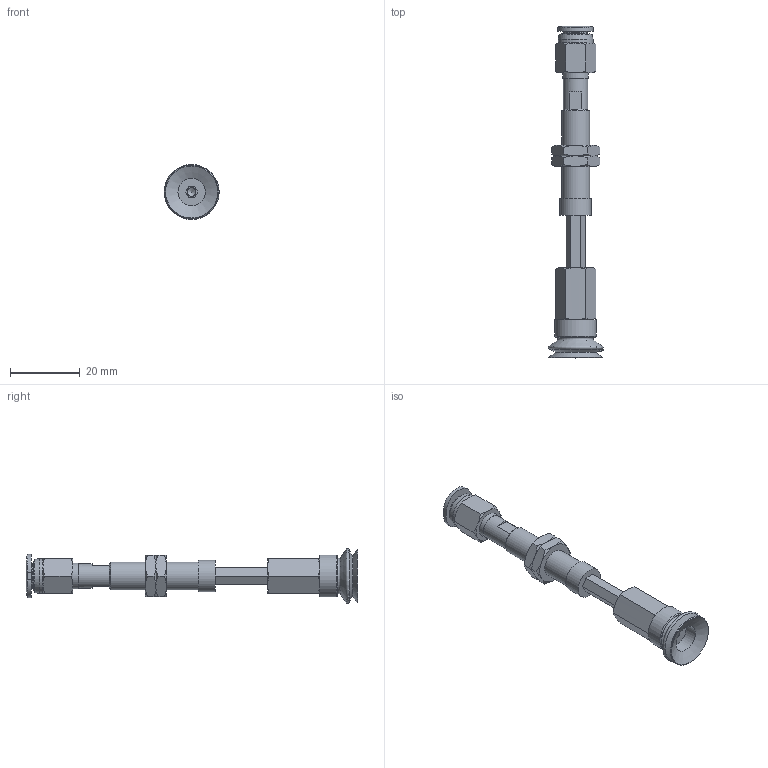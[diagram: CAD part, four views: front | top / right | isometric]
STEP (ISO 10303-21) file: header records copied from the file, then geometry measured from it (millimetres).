
FILE_DESCRIPTION(('STEP AP203'),'1');
FILE_NAME('-O.stp','2025-08-27T06:53:23',(' '),(' '),'Spatial InterOp 3D',' ',' ');
FILE_SCHEMA(('CONFIG_CONTROL_DESIGN'));
Length unit declared in the file: millimetre
Products named in the file (8): BNABPJTH-15-15-※-O; ADAPTER; NAPCTH-10-15-MBODY; Adapter-15-NAPJ; NAPJH-15-15-NUT; NAPJTH-15-15-FBODY; BPJG-15-※; PC-C_06-M5
Assembly tree (8 placements, depth 2):
  BNABPJTH-15-15-※-O
    ADAPTER
    NAPCTH-10-15-MBODY
    Adapter-15-NAPJ
    NAPJH-15-15-NUT  x2
    NAPJTH-15-15-FBODY
    BPJG-15-※
    PC-C_06-M5
Bounding box: 15.99 x 95.48 x 15.78 mm (x, y, z)
Volume: 4863.3 mm3; surface area: 6440.9 mm2
Topology: 7 solids, 10 shells, 198 faces, 422 edges, 253 vertices
Faces by surface type: plane 79, cone 69, cylinder 22, torus 11, bspline 10, sphere 4, revolution 3
Full cylindrical faces by diameter (mm): 2.5 x1, 4 x2, 4.134 x2, 4.6 x1, 5 x2, 7 x2, 7.188 x2, 7.4 x1, 7.9 x1, 8 x2, 8.2 x1, 9 x1, 10 x1, 12 x1
Entity records: 5454 total; most frequent: CARTESIAN_POINT 1669, DIRECTION 699, ORIENTED_EDGE 626, EDGE_CURVE 315, AXIS2_PLACEMENT_3D 297, EDGE_LOOP 243, VERTEX_POINT 215, FACE_OUTER_BOUND 143
